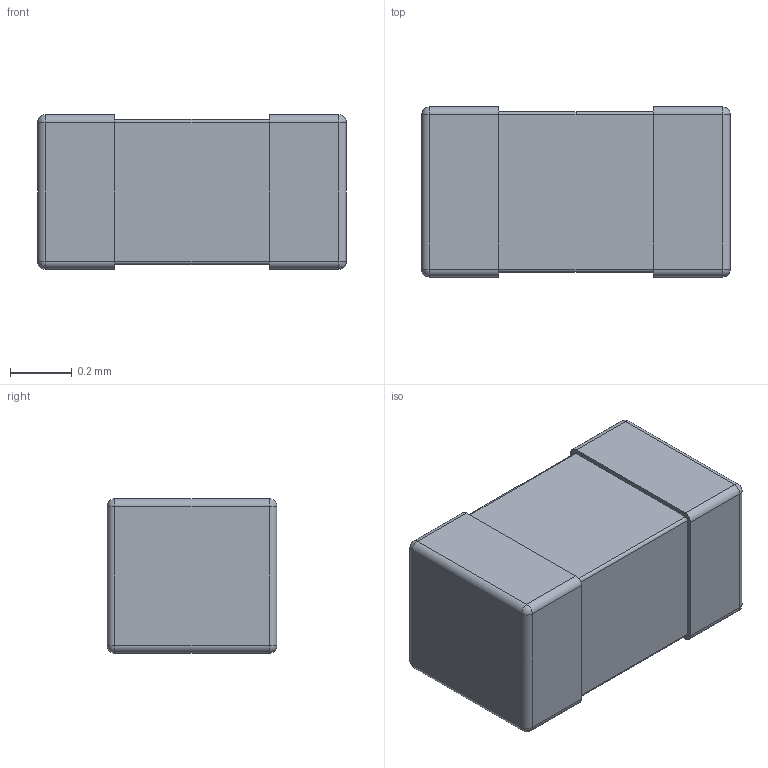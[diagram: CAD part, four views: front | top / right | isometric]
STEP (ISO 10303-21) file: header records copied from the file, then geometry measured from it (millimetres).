
FILE_DESCRIPTION (( 'STEP AP214' ), '1' );
FILE_NAME ('MLG1005S0N3BT.STEP', '2023-04-20T18:11:51', ( '' ), ( '' ), 'SwSTEP 2.0', 'SolidWorks 2021', '' );
FILE_SCHEMA (( 'AUTOMOTIVE_DESIGN' ));
Length unit declared in the file: millimetre
Products named in the file (1): MLG1005S0N3BT
Bounding box: 1 x 0.55 x 0.5 mm (x, y, z)
Volume: 0.3 mm3; surface area: 3.8 mm2
Topology: 4 solids, 4 shells, 54 faces, 120 edges, 66 vertices
Faces by surface type: plane 24, cylinder 22, sphere 8
Entity records: 1473 total; most frequent: DIRECTION 266, CARTESIAN_POINT 233, ORIENTED_EDGE 224, EDGE_CURVE 112, AXIS2_PLACEMENT_3D 99, LINE 68, VECTOR 68, VERTEX_POINT 66
